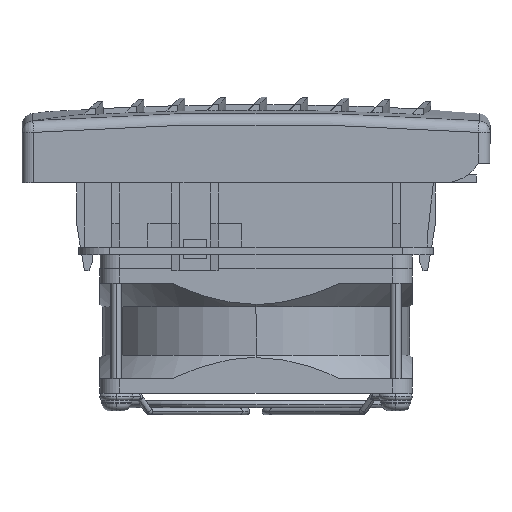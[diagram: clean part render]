
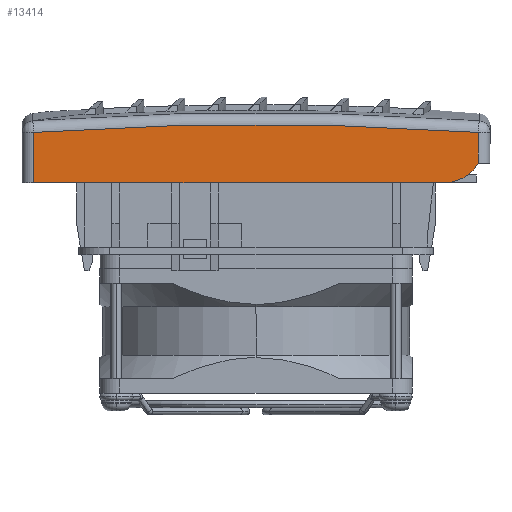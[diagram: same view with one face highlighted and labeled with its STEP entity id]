
A CAD part, left-side view. The second image highlights one B-rep face of the part: STEP entity #13414.
In plain terms, the highlighted planar face has unit normal (-1, 0, 0).
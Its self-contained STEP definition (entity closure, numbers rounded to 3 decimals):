
#479 = EDGE_CURVE ( 'NONE', #19114, #31084, #13674, .T. ) ;
#1532 = DIRECTION ( 'NONE',  ( -1., 0., 0. ) ) ;
#2336 = ORIENTED_EDGE ( 'NONE', *, *, #479, .T. ) ;
#4066 = EDGE_LOOP ( 'NONE', ( #38480, #40608, #41237, #42786, #2336 ) ) ;
#5762 = CARTESIAN_POINT ( 'NONE',  ( -14., -103., 5. ) ) ;
#6689 = FACE_OUTER_BOUND ( 'NONE', #4066, .T. ) ;
#9213 = DIRECTION ( 'NONE',  ( 1., 0., 0. ) ) ;
#9272 = LINE ( 'NONE', #31793, #27614 ) ;
#11018 = DIRECTION ( 'NONE',  ( 0., -1., 0. ) ) ;
#11470 = DIRECTION ( 'NONE',  ( -1., 0., 0. ) ) ;
#13414 = ADVANCED_FACE ( 'NONE', ( #6689 ), #36593, .F. ) ;
#13495 = VECTOR ( 'NONE', #23450, 1000. ) ;
#13674 = LINE ( 'NONE', #36688, #22847 ) ;
#14398 = EDGE_CURVE ( 'NONE', #35181, #27645, #40918, .T. ) ;
#19114 = VERTEX_POINT ( 'NONE', #31283 ) ;
#19955 = CARTESIAN_POINT ( 'NONE',  ( -14., -94.34, 0. ) ) ;
#22066 = CARTESIAN_POINT ( 'NONE',  ( -14., 11., 0. ) ) ;
#22216 = CARTESIAN_POINT ( 'NONE',  ( -14., -94.34, 10. ) ) ;
#22847 = VECTOR ( 'NONE', #43980, 1000. ) ;
#23220 = CIRCLE ( 'NONE', #26660, 794.959 ) ;
#23450 = DIRECTION ( 'NONE',  ( 0., 0., 1. ) ) ;
#24233 = EDGE_CURVE ( 'NONE', #35215, #35181, #38515, .T. ) ;
#25658 = DIRECTION ( 'NONE',  ( 0., 1., 0. ) ) ;
#26461 = CARTESIAN_POINT ( 'NONE',  ( -14., -103., 12.913 ) ) ;
#26660 = AXIS2_PLACEMENT_3D ( 'NONE', #32085, #11470, #35520 ) ;
#27614 = VECTOR ( 'NONE', #11018, 1000. ) ;
#27645 = VERTEX_POINT ( 'NONE', #26461 ) ;
#29476 = AXIS2_PLACEMENT_3D ( 'NONE', #22216, #1532, #25658 ) ;
#29852 = CARTESIAN_POINT ( 'NONE',  ( -14., 14., 20. ) ) ;
#31084 = VERTEX_POINT ( 'NONE', #22066 ) ;
#31283 = CARTESIAN_POINT ( 'NONE',  ( -14., 11., 12.913 ) ) ;
#31793 = CARTESIAN_POINT ( 'NONE',  ( -14., 14., 0. ) ) ;
#32085 = CARTESIAN_POINT ( 'NONE',  ( -14., -46., -780. ) ) ;
#33282 = DIRECTION ( 'NONE',  ( 0., 1., 0. ) ) ;
#35181 = VERTEX_POINT ( 'NONE', #5762 ) ;
#35215 = VERTEX_POINT ( 'NONE', #19955 ) ;
#35520 = DIRECTION ( 'NONE',  ( 0., 1., 0. ) ) ;
#35707 = EDGE_CURVE ( 'NONE', #27645, #19114, #23220, .T. ) ;
#36593 = PLANE ( 'NONE',  #42714 ) ;
#36688 = CARTESIAN_POINT ( 'NONE',  ( -14., 11., 20. ) ) ;
#37469 = EDGE_CURVE ( 'NONE', #31084, #35215, #9272, .T. ) ;
#38480 = ORIENTED_EDGE ( 'NONE', *, *, #37469, .T. ) ;
#38515 = CIRCLE ( 'NONE', #29476, 10. ) ;
#40608 = ORIENTED_EDGE ( 'NONE', *, *, #24233, .T. ) ;
#40918 = LINE ( 'NONE', #43786, #13495 ) ;
#41237 = ORIENTED_EDGE ( 'NONE', *, *, #14398, .T. ) ;
#42714 = AXIS2_PLACEMENT_3D ( 'NONE', #29852, #9213, #33282 ) ;
#42786 = ORIENTED_EDGE ( 'NONE', *, *, #35707, .T. ) ;
#43786 = CARTESIAN_POINT ( 'NONE',  ( -14., -103., 20. ) ) ;
#43980 = DIRECTION ( 'NONE',  ( 0., 0., -1. ) ) ;
